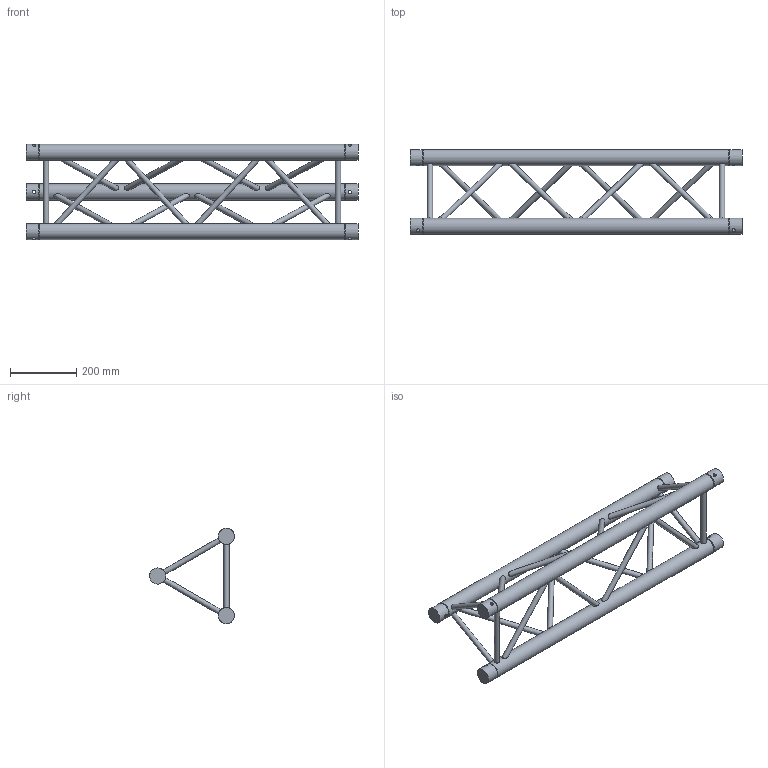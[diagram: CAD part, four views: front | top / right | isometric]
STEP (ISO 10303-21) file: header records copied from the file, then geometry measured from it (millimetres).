
FILE_DESCRIPTION(/* description */ (''),/* implementation_level */ '2;1');
FILE_NAME(/* name */ 'M:\Symbolen\STP\30-er truss\111050014.stp',/* time_stamp */ '2014-12-03T11:32:59+01:00',/* author */ ('Stephan'),/* organization */ (''),/* preprocessor_version */ 'ST-DEVELOPER v15.6',/* originating_system */ 'Autodesk Inventor 2015',/* authorisation */ '');
FILE_SCHEMA (('AUTOMOTIVE_DESIGN { 1 0 10303 214 3 1 1 }'));
Length unit declared in the file: millimetre
Products named in the file (1): 160023775
Bounding box: 1000 x 255.28 x 287.3 mm (x, y, z)
Volume: 5866448.7 mm3; surface area: 699176.7 mm2
Topology: 15 solids, 21 shells, 147 faces, 273 edges, 168 vertices
Faces by surface type: plane 84, cylinder 57, cone 6
Full cylindrical faces by diameter (mm): 10 x6, 16 x18, 48.3 x9
Entity records: 4068 total; most frequent: CARTESIAN_POINT 1180, DIRECTION 500, ORIENTED_EDGE 480, EDGE_CURVE 228, AXIS2_PLACEMENT_3D 220, EDGE_LOOP 216, VERTEX_POINT 168, STYLED_ITEM 124
